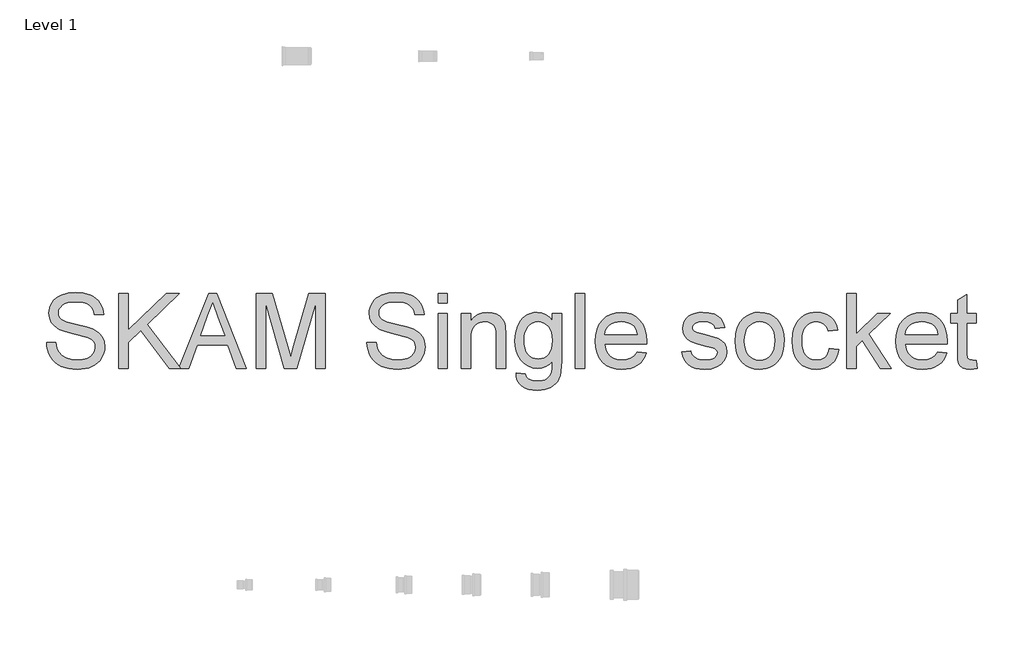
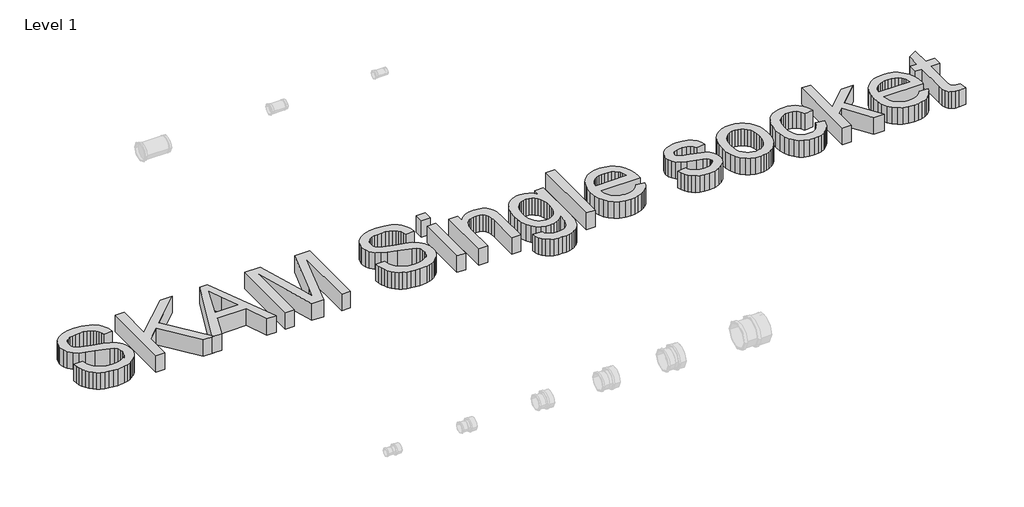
# One storey, part 17 of 29: 1 proxy.
"""IFC4 building model written with IfcOpenShell, lengths in millimetres."""

from ifc_helpers import new_model, si_unit, origin, origin_with_axes, place, context, project, spatial, polyline, outline, extrude, element, save

model = new_model("IFC4")

# Units and contexts
model_context = context("Model", 3, world=origin())
ifc_project = project(units=[si_unit("LENGTHUNIT", "METRE", prefix="MILLI")], contexts=[model_context])

# Site, building, storey
site = spatial("IfcSite", under=ifc_project)
building = spatial("IfcBuilding", under=site)
storey = spatial("IfcBuildingStorey", under=building, Name="Level 1", Elevation=0.0)

# Proxy
placement = place(None, origin())
element("IfcBuildingElementProxy", 1, Name="600mm Arial", ObjectType="600mm Arial", at=placement, inside=storey, context=model_context, shape_type="SweptSolid", body=[
    extrude(outline(polyline([(-4436.5673047, 16495.9452468), (-4361.225072, 16495.9452468), (-4352.5798452, 16454.1354581), (-4336.9448604, 16420.5294378), (-4312.5542841, 16393.8579931), (-4277.6422827, 16372.8519312), (-4234.9679713, 16359.2219033), (-4187.2904647, 16354.6785607), (-4145.3151291, 16358.1182573), (-4108.5637178, 16368.4373473), (-4078.7836702, 16384.7713079), (-4057.722426, 16406.2556164), (-4045.1960441, 16430.9221042), (-4041.0205834, 16456.8026025), (-4044.1475804, 16482.0209133), (-4053.5285713, 16503.8179215), (-4072.5848586, 16522.4143564), (-4104.737745, 16538.0309471), (-4214.440156, 16566.7993191), (-4286.4530565, 16585.8372123), (-4332.5302764, 16603.9554006), (-4370.0358458, 16629.3024701), (-4396.61532, 16660.0206167), (-4412.4526399, 16695.4476528), (-4417.7317465, 16734.9213909), (-4416.0992701, 16757.3575941), (-4411.2018411, 16779.0488362), (-4403.0394593, 16799.9951173), (-4391.6121248, 16820.1964374), (-4377.0485964, 16838.8296604), (-4359.4776326, 16855.0716505), (-4338.8992335, 16868.9224076), (-4315.313399, 16880.3819318), (-4262.3016035, 16895.7777933), (-4203.6244253, 16900.9097471), (-4140.0544165, 16895.53867), (-4084.4306589, 16879.4254386), (-4060.0952649, 16867.4232885), (-4038.7397151, 16852.9011467), (-4020.3640094, 16835.8590133), (-4004.9681479, 16816.2968882), (-3992.6716922, 16794.7849885), (-3983.594204, 16771.8935314), (-3977.7356832, 16747.6225168), (-3975.0961299, 16721.9719446), (-4050.4383625, 16721.9719446), (-4055.4783459, 16746.013033), (-4064.2707255, 16766.9271245), (-4076.8155016, 16784.7142189), (-4093.112674, 16799.3743164), (-4113.4657453, 16810.8338406), (-4138.1782184, 16819.019215), (-4167.250093, 16823.9304396), (-4200.6813693, 16825.5675145), (-4235.1795034, 16823.9488337), (-4264.6560483, 16819.0927914), (-4289.1110039, 16810.9993875), (-4308.5443703, 16799.668622), (-4323.3516206, 16786.0477912), (-4333.928228, 16771.084191), (-4340.2741924, 16754.7778216), (-4342.3895139, 16737.1286828), (-4340.8903948, 16721.9443535), (-4336.3930374, 16708.1763698), (-4328.8974417, 16695.8247318), (-4318.4036078, 16684.8894395), (-4301.8857062, 16674.5335614), (-4275.8764492, 16664.0673186), (-4195.3838686, 16642.8037393), (-4112.3161141, 16622.6070177), (-4062.0634336, 16604.9854702), (-4019.1132106, 16577.6518379), (-4002.5079371, 16561.5845918), (-3989.1492221, 16543.917059), (-3978.8807159, 16524.74121), (-3971.5460687, 16504.1490153), (-3965.6783508, 16458.7155889), (-3967.3660095, 16435.1481486), (-3972.4289854, 16412.270487), (-3980.8672787, 16390.0826042), (-3992.6808893, 16368.5845001), (-4007.6628835, 16348.6085077), (-4025.6063278, 16330.9869602), (-4046.5112222, 16315.7198574), (-4070.3775667, 16302.8071993), (-4096.5109839, 16292.5386931), (-4124.2170967, 16285.2040459), (-4184.3474088, 16279.336328), (-4222.8876463, 16280.9182206), (-4258.1629311, 16285.6638984), (-4290.1732632, 16293.5733613), (-4318.9186426, 16304.6466093), (-4344.5738132, 16318.9020366), (-4367.3135191, 16336.3580373), (-4387.1377601, 16357.0146113), (-4404.0465363, 16380.8717587), (-4417.6673672, 16407.1569273), (-4427.6277722, 16435.0975648), (-4433.9277513, 16464.6936713), (-4436.5673047, 16495.9452468)])), origin_with_axes(), (0.0, 0.0, 1.0), 150.0),
    extrude(outline(polyline([(-3852.6650019, 16288.7541071), (-3852.6650019, 16891.491968), (-3777.3227693, 16891.491968), (-3777.3227693, 16596.4506079), (-3468.3018934, 16891.491968), (-3362.9404899, 16891.491968), (-3622.3708729, 16643.6866561), (-3353.5227109, 16288.7541071), (-3445.6403624, 16288.7541071), (-3675.7873386, 16592.7717879), (-3777.3227693, 16495.9452468), (-3777.3227693, 16288.7541071), (-3852.6650019, 16288.7541071)])), origin_with_axes(), (0.0, 0.0, 1.0), 150.0),
    extrude(outline(polyline([(-3367.2079211, 16288.7541071), (-3126.6130962, 16891.491968), (-3062.4544763, 16891.491968), (-2821.8596514, 16288.7541071), (-2901.4693152, 16288.7541071), (-2970.4839775, 16477.1096887), (-3218.7307478, 16477.1096887), (-3287.5982573, 16288.7541071), (-3367.2079211, 16288.7541071)]), holes=[polyline([(-3191.0660218, 16552.4519213), (-2998.0015507, 16552.4519213), (-3052.3009332, 16700.6347889), (-3094.5337863, 16816.1497354), (-3132.0577498, 16713.5842352), (-3191.0660218, 16552.4519213)])]), origin_with_axes(), (0.0, 0.0, 1.0), 150.0),
    extrude(outline(polyline([(-2741.3670709, 16288.7541071), (-2741.3670709, 16891.491968), (-2611.7254558, 16891.491968), (-2488.411411, 16466.66184), (-2463.5425881, 16377.9287028), (-2436.6136261, 16474.0194799), (-2315.3597205, 16891.491968), (-2185.7181054, 16891.491968), (-2185.7181054, 16288.7541071), (-2261.060338, 16288.7541071), (-2261.060338, 16816.1497354), (-2412.4805672, 16288.7541071), (-2514.6046091, 16288.7541071), (-2666.0248383, 16816.1497354), (-2666.0248383, 16288.7541071), (-2741.3670709, 16288.7541071)])), origin_with_axes(), (0.0, 0.0, 1.0), 150.0),
    extrude(outline(polyline([(-1846.6780586, 16495.9452468), (-1771.335826, 16495.9452468), (-1762.6905991, 16454.1354581), (-1747.0556143, 16420.5294378), (-1722.665038, 16393.8579931), (-1687.7530367, 16372.8519312), (-1645.0787253, 16359.2219033), (-1597.4012187, 16354.6785607), (-1555.425883, 16358.1182573), (-1518.6744717, 16368.4373473), (-1488.8944242, 16384.7713079), (-1467.83318, 16406.2556164), (-1455.306798, 16430.9221042), (-1451.1313374, 16456.8026025), (-1454.2583344, 16482.0209133), (-1463.6393252, 16503.8179215), (-1482.6956126, 16522.4143564), (-1514.848499, 16538.0309471), (-1624.5509099, 16566.7993191), (-1696.5638105, 16585.8372123), (-1742.6410304, 16603.9554006), (-1780.1465998, 16629.3024701), (-1806.7260739, 16660.0206167), (-1822.5633938, 16695.4476528), (-1827.8425005, 16734.9213909), (-1826.2100241, 16757.3575941), (-1821.312595, 16779.0488362), (-1813.1502133, 16799.9951173), (-1801.7228788, 16820.1964374), (-1787.1593503, 16838.8296604), (-1769.5883865, 16855.0716505), (-1749.0099874, 16868.9224076), (-1725.424153, 16880.3819318), (-1672.4123575, 16895.7777933), (-1613.7351793, 16900.9097471), (-1550.1651705, 16895.53867), (-1494.5414128, 16879.4254386), (-1470.2060188, 16867.4232885), (-1448.850469, 16852.9011467), (-1430.4747634, 16835.8590133), (-1415.0789019, 16816.2968882), (-1402.7824462, 16794.7849885), (-1393.704958, 16771.8935314), (-1387.8464372, 16747.6225168), (-1385.2068839, 16721.9719446), (-1460.5491165, 16721.9719446), (-1465.5890998, 16746.013033), (-1474.3814795, 16766.9271245), (-1486.9262555, 16784.7142189), (-1503.2234279, 16799.3743164), (-1523.5764993, 16810.8338406), (-1548.2889723, 16819.019215), (-1577.360847, 16823.9304396), (-1610.7921233, 16825.5675145), (-1645.2902574, 16823.9488337), (-1674.7668023, 16819.0927914), (-1699.2217579, 16810.9993875), (-1718.6551243, 16799.668622), (-1733.4623746, 16786.0477912), (-1744.038982, 16771.084191), (-1750.3849464, 16754.7778216), (-1752.5002678, 16737.1286828), (-1751.0011487, 16721.9443535), (-1746.5037913, 16708.1763698), (-1739.0081957, 16695.8247318), (-1728.5143618, 16684.8894395), (-1711.9964602, 16674.5335614), (-1685.9872031, 16664.0673186), (-1605.4946226, 16642.8037393), (-1522.4268681, 16622.6070177), (-1472.1741875, 16604.9854702), (-1429.2239646, 16577.6518379), (-1412.618691, 16561.5845918), (-1399.2599761, 16543.917059), (-1388.9914699, 16524.74121), (-1381.6568226, 16504.1490153), (-1375.7891048, 16458.7155889), (-1377.4767634, 16435.1481486), (-1382.5397394, 16412.270487), (-1390.9780327, 16390.0826042), (-1402.7916432, 16368.5845001), (-1417.7736375, 16348.6085077), (-1435.7170818, 16330.9869602), (-1456.6219762, 16315.7198574), (-1480.4883206, 16302.8071993), (-1506.6217378, 16292.5386931), (-1534.3278506, 16285.2040459), (-1594.4581627, 16279.336328), (-1632.9984002, 16280.9182206), (-1668.2736851, 16285.6638984), (-1700.2840172, 16293.5733613), (-1729.0293966, 16304.6466093), (-1754.6845672, 16318.9020366), (-1777.424273, 16336.3580373), (-1797.248514, 16357.0146113), (-1814.1572902, 16380.8717587), (-1827.7781211, 16407.1569273), (-1837.7385261, 16435.0975648), (-1844.0385053, 16464.6936713), (-1846.6780586, 16495.9452468)])), origin_with_axes(), (0.0, 0.0, 1.0), 150.0),
    extrude(outline(polyline([(-1272.1935349, 16288.7541071), (-1272.1935349, 16731.3897237), (-1196.8513023, 16731.3897237), (-1196.8513023, 16288.7541071), (-1272.1935349, 16288.7541071)])), origin_with_axes(), (0.0, 0.0, 1.0), 150.0),
    extrude(outline(polyline([(-1272.1935349, 16816.1497354), (-1272.1935349, 16891.491968), (-1196.8513023, 16891.491968), (-1196.8513023, 16816.1497354), (-1272.1935349, 16816.1497354)])), origin_with_axes(), (0.0, 0.0, 1.0), 150.0),
    extrude(outline(polyline([(-1083.8379534, 16288.7541071), (-1083.8379534, 16731.3897237), (-1008.4957208, 16731.3897237), (-1008.4957208, 16669.5855485), (-982.3209168, 16700.7451535), (-950.8854004, 16723.0020142), (-914.1891713, 16736.3561307), (-872.2322298, 16740.8075028), (-835.0945424, 16737.2206533), (-801.0838519, 16726.460105), (-772.7201501, 16709.868627), (-752.5234286, 16688.7889887), (-738.8198242, 16663.2763723), (-729.9354741, 16633.3859602), (-725.9623485, 16560.5453252), (-725.9623485, 16288.7541071), (-801.3045811, 16288.7541071), (-801.3045811, 16550.3917821), (-803.4750849, 16589.3504854), (-809.9865962, 16617.0519996), (-821.9979433, 16636.8992333), (-840.6679546, 16652.2950948), (-864.5986784, 16662.1727263), (-892.3921631, 16665.4652702), (-915.2698247, 16663.6166632), (-936.5196084, 16658.0708421), (-956.1415144, 16648.8278069), (-974.1355425, 16635.8875578), (-989.1681205, 16617.7785666), (-999.9056762, 16593.0293053), (-1006.3482097, 16561.6397741), (-1008.4957208, 16523.6099728), (-1008.4957208, 16288.7541071), (-1083.8379534, 16288.7541071)])), origin_with_axes(), (0.0, 0.0, 1.0), 150.0),
    extrude(outline(polyline([(-641.2023368, 16251.0829908), (-565.8601042, 16241.6652117), (-557.5459711, 16218.120764), (-541.4327397, 16201.9339563), (-509.7580999, 16189.352392), (-468.2977991, 16185.1585373), (-424.0783833, 16189.904215), (-406.2177124, 16195.8363122), (-391.1897329, 16204.1412482), (-368.3810492, 16226.9499319), (-354.4015334, 16257.4105611), (-350.3180432, 16289.8209649), (-349.2511854, 16345.2607816), (-374.3223434, 16320.5391115), (-402.2997691, 16302.8807757), (-433.1834626, 16292.2857743), (-466.9734239, 16288.7541071), (-508.2819734, 16292.8651884), (-544.6517072, 16305.1984323), (-576.0826251, 16325.7538388), (-602.5747273, 16354.5314079), (-623.5945848, 16389.0571331), (-638.6087687, 16426.8570081), (-647.6172791, 16467.9310329), (-650.6201159, 16512.2792074), (-645.2306447, 16573.1084953), (-629.062231, 16629.0449527), (-617.078475, 16654.267862), (-602.6850919, 16676.4465477), (-585.8820818, 16695.58101), (-566.6694446, 16711.6712488), (-545.3552815, 16724.4183599), (-522.2476937, 16733.5234393), (-497.3466811, 16738.9864869), (-470.6522439, 16740.8075028), (-435.4183458, 16736.6872244), (-403.4402033, 16724.3263894), (-374.7178166, 16703.7249977), (-349.2511854, 16674.8830493), (-349.2511854, 16731.3897237), (-273.9089528, 16731.3897237), (-273.9089528, 16349.2339071), (-279.0593008, 16260.9974106), (-285.4972357, 16228.1777381), (-294.5103446, 16202.8904494), (-306.3147581, 16182.4959913), (-321.1266069, 16164.3548105), (-338.9458911, 16148.4669068), (-359.7726105, 16134.8322803), (-383.3952331, 16123.887791), (-409.6022268, 16116.0702986), (-438.3935914, 16111.3798031), (-469.7693271, 16109.8163047), (-506.6816868, 16112.0189981), (-539.8692412, 16118.6270785), (-569.3319905, 16129.6405457), (-595.0699346, 16145.0593998), (-615.8598659, 16164.9020349), (-630.4785767, 16189.1868451), (-638.926067, 16217.9138304), (-641.2023368, 16251.0829908)]), holes=[polyline([(-575.2778833, 16517.4295553), (-573.2683279, 16480.1769048), (-567.2396617, 16448.3229225), (-557.1918847, 16421.8676086), (-543.1249969, 16400.8109629), (-526.0230827, 16384.7483152), (-506.8702263, 16373.2749955), (-485.6664278, 16366.3910037), (-462.4116872, 16364.0963397), (-439.3868728, 16366.3772081), (-418.2842418, 16373.2198132), (-399.1037943, 16384.6241551), (-381.8455302, 16400.5902337), (-367.5855044, 16421.4399457), (-357.3997716, 16447.495188), (-351.288332, 16478.7559606), (-349.2511854, 16515.2222634), (-351.3481128, 16550.1664544), (-357.6388949, 16580.5397116), (-368.1235318, 16606.342035), (-382.8020234, 16627.5734247), (-400.432768, 16644.1511071), (-419.7741639, 16655.9923088), (-440.8262111, 16663.0970298), (-463.5889095, 16665.4652702), (-485.9699304, 16663.133818), (-506.6127089, 16656.1394616), (-525.5172449, 16644.4822009), (-542.6835385, 16628.1620359), (-556.9435643, 16607.252543), (-567.1292971, 16581.8272986), (-573.2407367, 16551.8863027), (-575.2778833, 16517.4295553)])]), origin_with_axes(), (0.0, 0.0, 1.0), 150.0),
    extrude(outline(polyline([(-160.8956039, 16288.7541071), (-160.8956039, 16891.491968), (-85.5533713, 16891.491968), (-85.5533713, 16288.7541071), (-160.8956039, 16288.7541071)])), origin_with_axes(), (0.0, 0.0, 1.0), 150.0),
    extrude(outline(polyline([(337.3637704, 16420.6030142), (411.234475, 16411.1852351), (399.9083081, 16381.5983257), (384.6182126, 16355.5246892), (365.3641887, 16332.9643259), (342.1462363, 16313.9172356), (315.2034787, 16298.7880885), (284.7750391, 16287.9815549), (250.8609177, 16281.4976348), (213.4611144, 16279.336328), (166.7125098, 16283.0657318), (125.0590709, 16294.2539429), (88.5007977, 16312.9009616), (57.03769, 16339.0067877), (31.7366058, 16371.8448543), (13.6644028, 16410.6885944), (2.821081, 16455.5380082), (-0.7933596, 16506.3930955), (2.8578692, 16558.9726296), (13.8115556, 16605.316564), (32.0676996, 16645.4248985), (57.6263012, 16679.2976332), (89.0066354, 16706.2082011), (124.7279771, 16725.4300354), (164.7903264, 16736.9631359), (209.1936832, 16740.8075028), (252.1668988, 16736.972333), (291.0290331, 16725.4668236), (325.780086, 16706.2909746), (356.4200577, 16679.444786), (381.4314349, 16645.6456277), (399.2967042, 16605.6108696), (410.0158659, 16559.3405116), (413.5889198, 16506.8345539), (413.1474614, 16486.5274677), (74.548873, 16486.5274677), (78.9128732, 16456.4623117), (87.5902897, 16430.1311579), (100.5811227, 16407.5340063), (117.885372, 16388.670857), (138.5465446, 16373.7992274), (161.6081472, 16363.1766347), (187.0701797, 16356.8030792), (214.9326424, 16354.6785607), (255.0317798, 16358.614898), (288.803347, 16370.42391), (316.2473438, 16390.8413608), (337.3637704, 16420.6030142)]), holes=[polyline([(74.548873, 16561.8697003), (338.2466871, 16561.8697003), (328.0563559, 16601.6745322), (319.2915673, 16617.3279111), (308.0803635, 16630.1485986), (287.5341541, 16645.5996424), (264.1552533, 16656.6361023), (237.9436612, 16663.2579782), (208.8993776, 16665.4652702), (182.4072755, 16663.7040351), (158.1132682, 16658.42033), (136.0173559, 16649.6141547), (116.1195385, 16637.2855094), (99.4222944, 16622.004611), (86.9281021, 16604.3416767), (78.6369617, 16584.2967065), (74.548873, 16561.8697003)])]), origin_with_axes(), (0.0, 0.0, 1.0), 150.0),
    extrude(outline(polyline([(696.1222921, 16420.6030142), (771.4645247, 16430.0207933), (776.0170644, 16412.8407041), (783.3471131, 16397.7943305), (793.4546709, 16384.8816725), (806.3397378, 16374.10273), (822.0391019, 16365.6046559), (840.5895516, 16359.534603), (886.2437072, 16354.6785607), (931.3460398, 16359.1299328), (948.8756168, 16364.694148), (963.0574678, 16372.4840492), (981.8194495, 16391.8346422), (986.5099449, 16402.6687669), (988.0734434, 16414.2754439), (986.5007479, 16424.447381), (981.7826613, 16433.478884), (962.910315, 16448.1205874), (934.6937659, 16457.6855193), (885.3607904, 16469.6048959), (816.6036455, 16489.4889178), (771.9059831, 16506.4666719), (743.1927933, 16524.9895303), (722.3890665, 16549.5088653), (709.75232, 16578.4611783), (705.5400711, 16610.2829709), (708.9245855, 16639.4744072), (719.0781285, 16666.4217634), (735.0809953, 16690.0581816), (756.0134809, 16709.316804), (776.8172077, 16721.4385157), (803.9117166, 16731.6104529), (835.2368685, 16738.5082403), (868.7325242, 16740.8075028), (917.7711941, 16737.1102887), (960.4087174, 16726.0186466), (994.6953193, 16708.6178282), (1018.6812254, 16685.9930855), (1034.5737276, 16656.4705554), (1044.5801179, 16618.3763748), (969.2378853, 16608.9585957), (959.7281357, 16632.6685903), (940.9109716, 16650.5292612), (912.6024521, 16661.7312679), (874.6186361, 16665.4652702), (831.3557135, 16661.8968148), (802.5137651, 16651.1914488), (786.2901691, 16635.740405), (780.8823037, 16617.9349164), (783.1263839, 16606.3466336), (789.8586244, 16596.0091495), (801.3733309, 16586.7753114), (817.9648089, 16579.3808833), (882.8591928, 16563.3412283), (993.4445206, 16527.877404), (1022.654351, 16510.918044), (1044.8008471, 16487.7046901), (1058.7619688, 16458.1637659), (1063.415676, 16422.221695), (1057.9526284, 16385.0656135), (1041.5634855, 16350.1168239), (1014.8736468, 16320.1160472), (978.5085115, 16297.8040042), (934.5834013, 16283.9532471), (885.2136376, 16279.336328), (844.6638447, 16281.5620141), (809.2460056, 16288.2390723), (778.9601203, 16299.3675027), (753.8061889, 16314.9473052), (733.2599795, 16334.9049034), (716.7972602, 16359.166721), (704.418031, 16387.7327579), (696.1222921, 16420.6030142)])), origin_with_axes(), (0.0, 0.0, 1.0), 150.0),
    extrude(outline(polyline([(1129.3401296, 16510.0719154), (1133.4144227, 16567.3971273), (1145.637302, 16616.7944822), (1166.0087674, 16658.2639801), (1194.5288191, 16691.805621), (1223.2420088, 16713.2439443), (1254.9350427, 16728.5570324), (1289.6079208, 16737.7448852), (1327.260643, 16740.8075028), (1368.8267099, 16737.0780991), (1406.4104542, 16725.8898879), (1440.011876, 16707.2428693), (1469.6309751, 16681.1370432), (1493.8054207, 16648.4553264), (1511.0728819, 16610.0806358), (1521.4333586, 16566.0129713), (1524.8868508, 16516.2523329), (1523.3601405, 16475.9232692), (1518.7800097, 16440.1375481), (1511.1464583, 16408.8951697), (1500.4594863, 16382.1961339), (1486.852451, 16359.1345313), (1470.4587096, 16338.8044526), (1451.2782621, 16321.2058976), (1429.3111084, 16306.3388665), (1405.4125743, 16294.5252559), (1380.4379854, 16286.0869627), (1354.3873416, 16281.0239867), (1327.260643, 16279.336328), (1285.0875708, 16283.0519362), (1247.1543385, 16294.1987606), (1213.4609463, 16312.7768014), (1184.0073941, 16338.7860585), (1160.0904658, 16371.7850734), (1143.0069457, 16411.3323879), (1132.7568336, 16457.4280019), (1129.3401296, 16510.0719154)]), holes=[polyline([(1204.6823622, 16510.2190682), (1206.862063, 16473.6745905), (1213.4011655, 16442.0321404), (1224.2996696, 16415.2917179), (1239.5575753, 16393.4533229), (1258.117222, 16376.4893644), (1278.9209488, 16364.3722512), (1301.9687558, 16357.1019833), (1327.260643, 16354.6785607), (1352.4237714, 16357.1157789), (1375.3796079, 16364.4274335), (1396.1281525, 16376.6135246), (1414.669405, 16393.6740521), (1429.9273108, 16415.7285778), (1440.8258149, 16442.8966631), (1447.3649174, 16475.1783082), (1449.5446182, 16512.573513), (1447.3511218, 16547.9591624), (1440.7706326, 16578.773878), (1429.8031506, 16605.0176598), (1414.4486758, 16626.6905079), (1395.8384454, 16643.6544664), (1375.1036964, 16655.7715796), (1352.244429, 16663.0418475), (1327.260643, 16665.4652702), (1301.9687558, 16663.0510446), (1278.9209488, 16655.8083678), (1258.117222, 16643.7372398), (1239.5575753, 16626.8376607), (1224.2996696, 16605.0636451), (1213.4011655, 16578.3692078), (1206.862063, 16546.7543489), (1204.6823622, 16510.2190682)])]), origin_with_axes(), (0.0, 0.0, 1.0), 150.0),
    extrude(outline(polyline([(1892.1802348, 16448.8563514), (1967.5224674, 16439.4385723), (1959.3278959, 16403.887376), (1946.5164055, 16372.4288669), (1929.0879959, 16345.063045), (1907.0426674, 16321.7899103), (1881.3093218, 16303.2164681), (1852.8168613, 16289.9497236), (1821.5652858, 16281.9896769), (1787.5545953, 16279.336328), (1745.2987497, 16283.0381406), (1707.4115027, 16294.1435784), (1673.8928544, 16312.6526412), (1644.7428048, 16338.5653293), (1621.1477733, 16371.3941988), (1604.2941794, 16410.6518062), (1594.1820231, 16456.3381515), (1590.8113043, 16508.4532346), (1596.5686575, 16575.4997283), (1603.7653491, 16605.6706504), (1613.8407172, 16633.6066894), (1626.8637398, 16658.7468252), (1642.9033948, 16680.5300379), (1661.9596822, 16698.9563273), (1684.0326019, 16714.0256935), (1708.1242741, 16725.7427351), (1733.2368188, 16734.1120505), (1759.370236, 16739.1336397), (1786.5245258, 16740.8075028), (1819.9512035, 16738.5082403), (1850.186505, 16731.6104529), (1877.2304302, 16720.1141406), (1901.0829791, 16704.0193033), (1921.3394814, 16683.693823), (1937.5952671, 16659.5055819), (1949.850336, 16631.4545797), (1958.1046883, 16599.5408166), (1882.7624557, 16590.1230376), (1869.0956396, 16622.9932938), (1847.8136662, 16646.5561356), (1820.0937578, 16660.7379865), (1787.1131369, 16665.4652702), (1761.5131486, 16663.1384166), (1738.4239549, 16656.1578557), (1717.8455558, 16644.5235876), (1699.7779513, 16628.2356123), (1685.06727, 16606.9168506), (1674.5596405, 16580.1902237), (1668.2550628, 16548.0557314), (1666.1535369, 16510.5133738), (1668.2090776, 16472.4053976), (1674.3756995, 16439.8984248), (1684.6534028, 16412.9924554), (1699.0421873, 16391.6874894), (1716.7511068, 16375.4960831), (1736.9892151, 16363.9307928), (1759.7565121, 16356.9916187), (1785.0529978, 16354.6785607), (1824.0668834, 16360.454308), (1840.9388714, 16367.6739921), (1856.0542228, 16377.78155), (1868.9898735, 16390.887346), (1879.322759, 16407.101745), (1887.0528795, 16426.4247468), (1892.1802348, 16448.8563514)])), origin_with_axes(), (0.0, 0.0, 1.0), 150.0),
    extrude(outline(polyline([(2033.4469209, 16288.7541071), (2033.4469209, 16891.491968), (2108.7891535, 16891.491968), (2108.7891535, 16567.6086595), (2277.7205657, 16731.3897237), (2381.9047467, 16731.3897237), (2210.9131954, 16565.5485203), (2391.3225258, 16288.7541071), (2303.3251526, 16288.7541071), (2156.9081185, 16513.1621242), (2108.7891535, 16466.5146872), (2108.7891535, 16288.7541071), (2033.4469209, 16288.7541071)])), origin_with_axes(), (0.0, 0.0, 1.0), 150.0),
    extrude(outline(polyline([(2767.1507721, 16420.6030142), (2841.0214767, 16411.1852351), (2829.6953098, 16381.5983257), (2814.4052144, 16355.5246892), (2795.1511905, 16332.9643259), (2771.933238, 16313.9172356), (2744.9904804, 16298.7880885), (2714.5620409, 16287.9815549), (2680.6479195, 16281.4976348), (2643.2481161, 16279.336328), (2596.4995116, 16283.0657318), (2554.8460727, 16294.2539429), (2518.2877994, 16312.9009616), (2486.8246918, 16339.0067877), (2461.5236076, 16371.8448543), (2443.4514045, 16410.6885944), (2432.6080827, 16455.5380082), (2428.9936421, 16506.3930955), (2432.6448709, 16558.9726296), (2443.5985573, 16605.316564), (2461.8547014, 16645.4248985), (2487.413303, 16679.2976332), (2518.7936372, 16706.2082011), (2554.5149789, 16725.4300354), (2594.5773282, 16736.9631359), (2638.980685, 16740.8075028), (2681.9539005, 16736.972333), (2720.8160348, 16725.4668236), (2755.5670878, 16706.2909746), (2786.2070594, 16679.444786), (2811.2184366, 16645.6456277), (2829.083706, 16605.6108696), (2839.8028676, 16559.3405116), (2843.3759215, 16506.8345539), (2842.9344631, 16486.5274677), (2504.3358747, 16486.5274677), (2508.6998749, 16456.4623117), (2517.3772915, 16430.1311579), (2530.3681244, 16407.5340063), (2547.6723738, 16388.670857), (2568.3335463, 16373.7992274), (2591.3951489, 16363.1766347), (2616.8571815, 16356.8030792), (2644.7196441, 16354.6785607), (2684.8187816, 16358.614898), (2718.5903487, 16370.42391), (2746.0343456, 16390.8413608), (2767.1507721, 16420.6030142)]), holes=[polyline([(2504.3358747, 16561.8697003), (2768.0336889, 16561.8697003), (2757.8433576, 16601.6745322), (2749.0785691, 16617.3279111), (2737.8673653, 16630.1485986), (2717.3211559, 16645.5996424), (2693.9422551, 16656.6361023), (2667.7306629, 16663.2579782), (2638.6863794, 16665.4652702), (2612.1942772, 16663.7040351), (2587.9002699, 16658.42033), (2565.8043576, 16649.6141547), (2545.9065402, 16637.2855094), (2529.2092961, 16622.004611), (2516.7151039, 16604.3416767), (2508.4239634, 16584.2967065), (2504.3358747, 16561.8697003)])]), origin_with_axes(), (0.0, 0.0, 1.0), 150.0),
    extrude(outline(polyline([(3078.8203984, 16351.5883519), (3088.2381775, 16286.5468151), (3031.8786558, 16279.336328), (2995.7158557, 16282.463325), (2968.7501055, 16291.8443159), (2949.6938181, 16306.3020783), (2937.2594067, 16324.6593899), (2930.4168016, 16356.1868768), (2928.1359332, 16410.1551655), (2928.1359332, 16656.0474911), (2871.6292587, 16656.0474911), (2871.6292587, 16731.3897237), (2928.1359332, 16731.3897237), (2928.1359332, 16838.9584191), (3003.4781658, 16883.2514113), (3003.4781658, 16731.3897237), (3078.8203984, 16731.3897237), (3078.8203984, 16656.0474911), (3003.4781658, 16656.0474911), (3003.4781658, 16412.3624575), (3007.4512913, 16373.5141188), (3020.3271612, 16359.7553322), (3031.1980741, 16355.9477535), (3046.0053244, 16354.6785607), (3078.8203984, 16351.5883519)])), origin_with_axes(), (0.0, 0.0, 1.0), 150.0),
])

save(model, "model.ifc")
